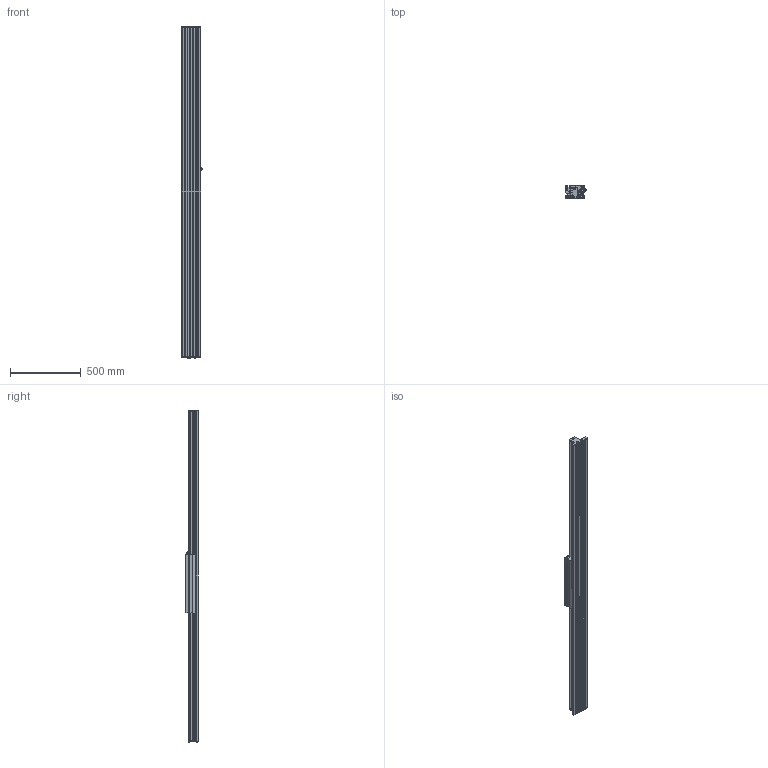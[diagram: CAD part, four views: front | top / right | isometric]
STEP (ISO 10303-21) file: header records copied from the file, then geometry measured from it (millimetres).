
FILE_DESCRIPTION (( 'STEP AP214' ), '1' );
FILE_NAME ('SINADRIVES Linear Motor Stage MLL20630XS-XX-1-0-ST-00-02340.STEP', '2015-07-07T08:02:07', ( 'Tecnico' ), ( '' ), 'SwSTEP 2.0', 'SolidWorks 2009', '' );
FILE_SCHEMA (( 'AUTOMOTIVE_DESIGN' ));
Length unit declared in the file: millimetre
Products named in the file (7): SINADRIVES CARRIAGE MLL20630XS-1; CARRIAGE MLL20630; Connector power+signal Y-tec 45; SINADRIVES PROFILE MLL2XXXX-2324; SINADRIVES ENDBLOCK MLL2; SINADRIVES ENDBLOCK MLL2-2; SINADRIVES Linear Motor Stage MLL20630XS-XX-1-0-ST-00-02340
Assembly tree (6 placements, depth 3):
  SINADRIVES Linear Motor Stage MLL20630XS-XX-1-0-ST-00-02340
    SINADRIVES ENDBLOCK MLL2-2
    SINADRIVES ENDBLOCK MLL2
    SINADRIVES CARRIAGE MLL20630XS-1
      CARRIAGE MLL20630
      Connector power+signal Y-tec 45
    SINADRIVES PROFILE MLL2XXXX-2324
Bounding box: 144.43 x 91 x 2348.8 mm (x, y, z)
Volume: 11627932 mm3; surface area: 1981088.7 mm2
Topology: 2 solids, 42 shells, 950 faces, 2640 edges, 1730 vertices
Faces by surface type: plane 445, cylinder 302, bspline 79, cone 70, torus 42, sphere 12
Entity records: 40587 total; most frequent: CARTESIAN_POINT 8656, ORIENTED_EDGE 5024, DIRECTION 4947, EDGE_CURVE 2622, AXIS2_PLACEMENT_3D 1781, VERTEX_POINT 1730, VECTOR 1385, LINE 1385
